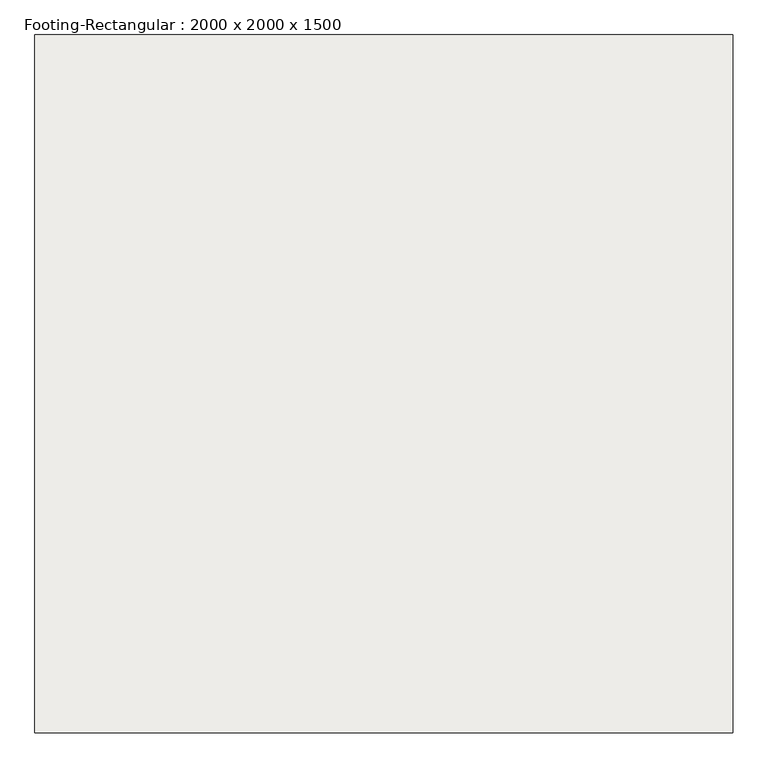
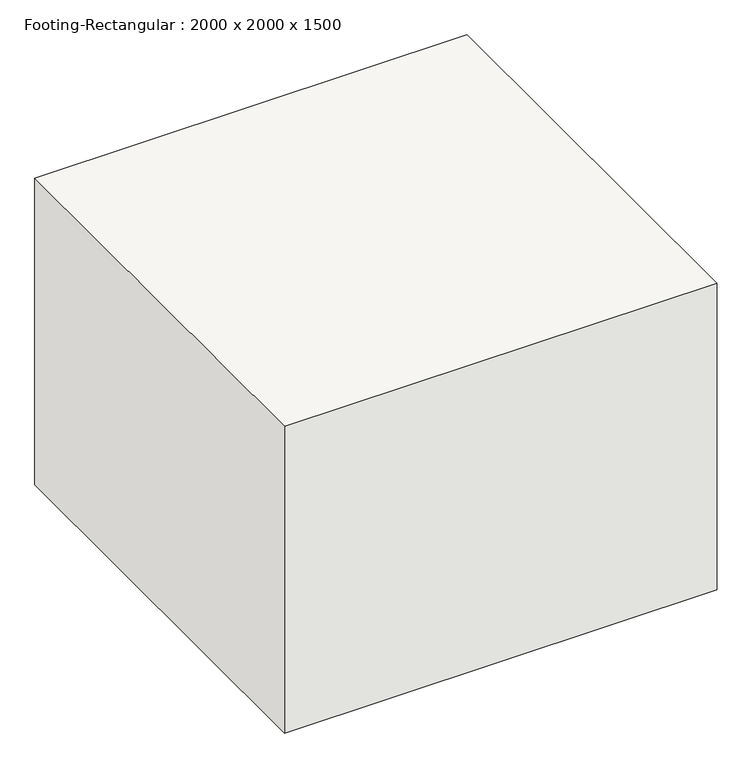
"""IFC4 building model written with IfcOpenShell, lengths in millimetres: slab geometry, Footing-Rectangular : 2000 x 2000 x 1500."""

from ifc_helpers import new_model, si_unit, frame, origin, place, context, project, spatial, polyline, outline, extrude, source, transform, mapped, element, save


def footing_rectangular_2000_x_2000_x_1500_609e12ed(model_context):
    return source(origin(), model_context, "Body", "SweptSolid", [
        extrude(outline(polyline([(1000.0, 1000.0), (1000.0, -1000.0), (-1000.0, -1000.0), (-1000.0, 1000.0), (1000.0, 1000.0)])), frame((0.0, 0.0, -1500.0), z_axis=(0.0, 0.0, 1.0), x_axis=(1.0, 0.0, 0.0)), (0.0, 0.0, 1.0), 1500.0),
    ])


if __name__ == "__main__":
    model = new_model("IFC4")
    model_context = context("Model", 3, world=origin())
    ifc_project = project(units=[si_unit("LENGTHUNIT", "METRE", prefix="MILLI")], contexts=[model_context])
    site = spatial("IfcSite", under=ifc_project)
    building = spatial("IfcBuilding", under=site)
    placement = place(None, origin())
    footing_rectangular_2000_x_2000_x_1500_shape = footing_rectangular_2000_x_2000_x_1500_609e12ed(model_context)
    element("IfcSlab", 1, ObjectType="Footing-Rectangular : 2000 x 2000 x 1500", at=placement, inside=building, context=model_context, shape_type="MappedRepresentation", body=[
        mapped(footing_rectangular_2000_x_2000_x_1500_shape, transform((0.0, 0.0, 0.0), x_axis=(1.0, 0.0, 0.0), y_axis=(0.0, 1.0, 0.0), z_axis=(0.0, 0.0, 1.0))),
    ])
    save(model, "model.ifc")
